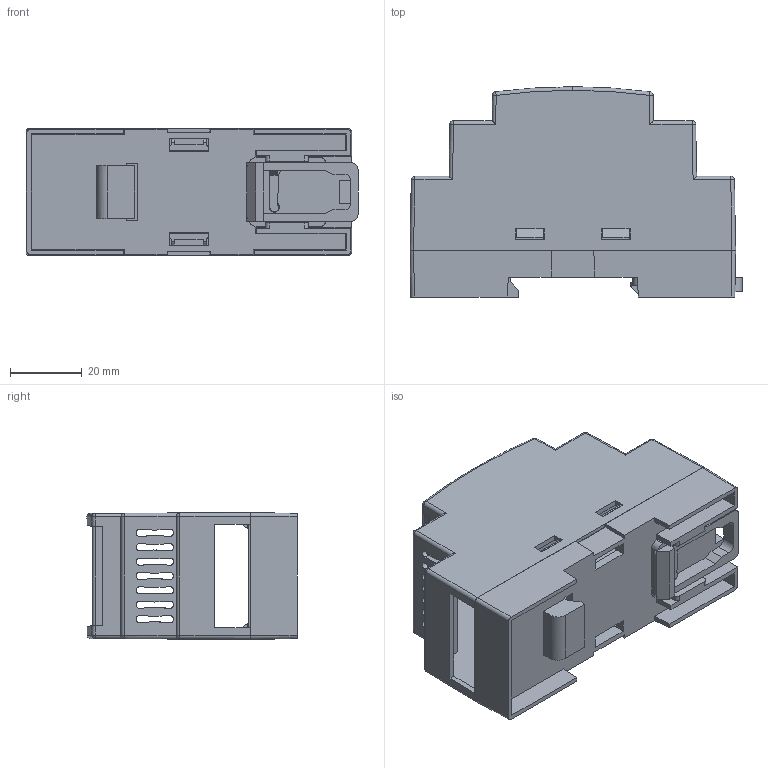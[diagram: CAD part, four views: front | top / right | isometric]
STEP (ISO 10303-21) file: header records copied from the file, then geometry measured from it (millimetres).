
FILE_DESCRIPTION (( 'STEP AP203' ), '1' );
FILE_NAME ('PT202-E.STEP', '2021-11-01T12:17:36', ( '' ), ( '' ), 'SwSTEP 2.0', 'SolidWorks 2021', '' );
FILE_SCHEMA (( 'CONFIG_CONTROL_DESIGN' ));
Length unit declared in the file: millimetre
Products named in the file (5): PT202-E
Assembly tree (4 placements, depth 2):
  PT202-E
    PT202-E
    PT202-E
    PT202-E
    PT202-E
Bounding box: 92.38 x 58.5 x 35.3 mm (x, y, z)
Volume: 33557.7 mm3; surface area: 40254.6 mm2
Topology: 4 solids, 4 shells, 540 faces, 1549 edges, 1012 vertices
Faces by surface type: plane 304, cylinder 207, cone 14, sphere 12, bspline 3
Entity records: 17920 total; most frequent: CARTESIAN_POINT 4183, ORIENTED_EDGE 3082, DIRECTION 2390, EDGE_CURVE 1541, LINE 1084, VECTOR 1084, VERTEX_POINT 1012, AXIS2_PLACEMENT_3D 653
